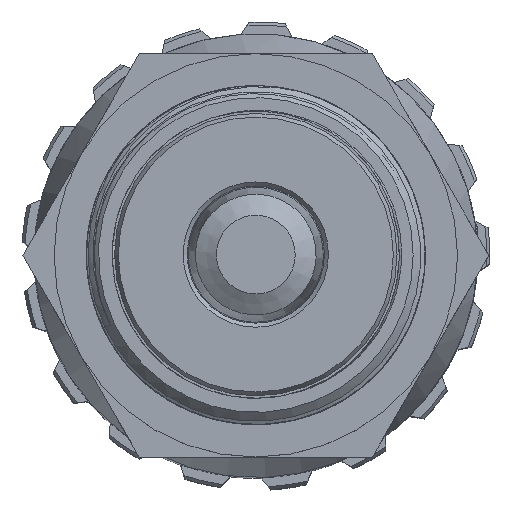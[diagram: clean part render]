
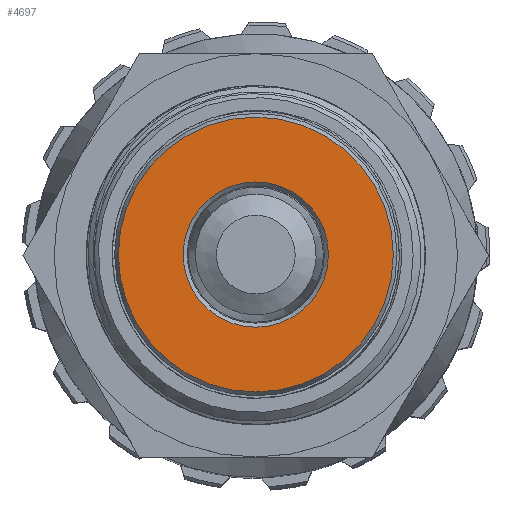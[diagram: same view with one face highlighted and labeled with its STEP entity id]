
A CAD part, top view. The second image highlights one B-rep face of the part: STEP entity #4697.
In plain terms, the highlighted planar face has unit normal (0, 0, 1).
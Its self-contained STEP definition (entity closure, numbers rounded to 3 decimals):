
#510 = FACE_BOUND ( 'NONE', #4012, .T. ) ;
#1885 = DIRECTION ( 'NONE',  ( 1., 0., 0. ) ) ;
#2622 = CARTESIAN_POINT ( 'NONE',  ( 9., 0., 68. ) ) ;
#3890 = ORIENTED_EDGE ( 'NONE', *, *, #14161, .T. ) ;
#4012 = EDGE_LOOP ( 'NONE', ( #27394 ) ) ;
#4482 = CARTESIAN_POINT ( 'NONE',  ( 0., 0., 68. ) ) ;
#4697 = ADVANCED_FACE ( 'NONE', ( #510, #30379 ), #18051, .T. ) ;
#6708 = VERTEX_POINT ( 'NONE', #24048 ) ;
#7014 = AXIS2_PLACEMENT_3D ( 'NONE', #4482, #19559, #1885 ) ;
#8102 = EDGE_LOOP ( 'NONE', ( #3890 ) ) ;
#10435 = DIRECTION ( 'NONE',  ( 0., 0., 1. ) ) ;
#13701 = AXIS2_PLACEMENT_3D ( 'NONE', #20836, #30731, #18406 ) ;
#14161 = EDGE_CURVE ( 'NONE', #6708, #6708, #27643, .T. ) ;
#17288 = EDGE_CURVE ( 'NONE', #19829, #19829, #26132, .T. ) ;
#18051 = PLANE ( 'NONE',  #18628 ) ;
#18406 = DIRECTION ( 'NONE',  ( 1., 0., 0. ) ) ;
#18628 = AXIS2_PLACEMENT_3D ( 'NONE', #20817, #10435, #20327 ) ;
#19559 = DIRECTION ( 'NONE',  ( 0., 0., -1. ) ) ;
#19829 = VERTEX_POINT ( 'NONE', #2622 ) ;
#20327 = DIRECTION ( 'NONE',  ( 1., 0., 0. ) ) ;
#20817 = CARTESIAN_POINT ( 'NONE',  ( 0., 0., 68. ) ) ;
#20836 = CARTESIAN_POINT ( 'NONE',  ( 0., 0., 68. ) ) ;
#24048 = CARTESIAN_POINT ( 'NONE',  ( 17.038, 0., 68. ) ) ;
#26132 = CIRCLE ( 'NONE', #7014, 9. ) ;
#27394 = ORIENTED_EDGE ( 'NONE', *, *, #17288, .T. ) ;
#27643 = CIRCLE ( 'NONE', #13701, 17.038 ) ;
#30379 = FACE_OUTER_BOUND ( 'NONE', #8102, .T. ) ;
#30731 = DIRECTION ( 'NONE',  ( 0., 0., 1. ) ) ;
